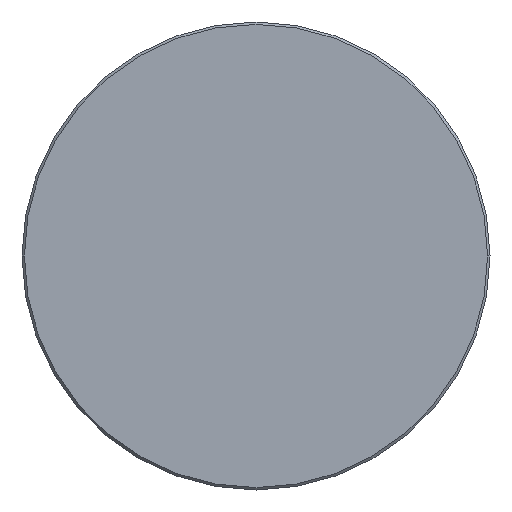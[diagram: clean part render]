
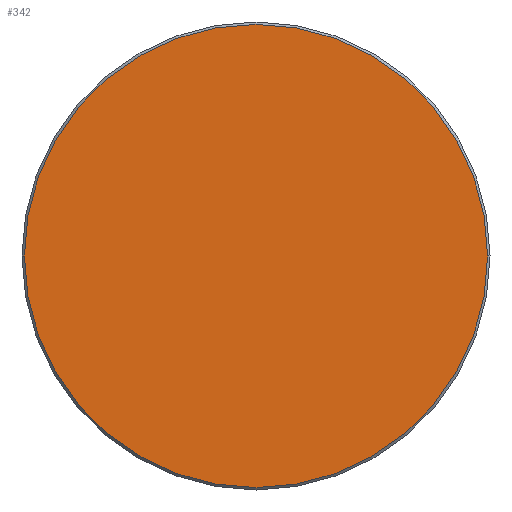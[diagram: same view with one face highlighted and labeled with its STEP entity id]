
A CAD part, left-side view. The second image highlights one B-rep face of the part: STEP entity #342.
In plain terms, the highlighted planar face has unit normal (-1, 0, 0).
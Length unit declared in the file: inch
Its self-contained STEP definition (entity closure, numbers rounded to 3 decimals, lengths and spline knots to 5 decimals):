
#28 = EDGE_LOOP ( 'NONE', ( #210, #247 ) ) ;
#49 = EDGE_CURVE ( 'NONE', #203, #174, #60, .T. ) ;
#51 = DIRECTION ( 'NONE',  ( -1., 0., 0. ) ) ;
#57 = EDGE_CURVE ( 'NONE', #174, #203, #298, .T. ) ;
#60 = CIRCLE ( 'NONE', #116, 0.38663 ) ;
#63 = CARTESIAN_POINT ( 'NONE',  ( 0., 0.38663, 0. ) ) ;
#80 = CARTESIAN_POINT ( 'NONE',  ( 0., 0., 0. ) ) ;
#96 = AXIS2_PLACEMENT_3D ( 'NONE', #80, #51, #225 ) ;
#97 = CARTESIAN_POINT ( 'NONE',  ( 0., -0.38663, 0. ) ) ;
#107 = PLANE ( 'NONE',  #96 ) ;
#116 = AXIS2_PLACEMENT_3D ( 'NONE', #155, #299, #305 ) ;
#155 = CARTESIAN_POINT ( 'NONE',  ( 0., 0., 0. ) ) ;
#157 = CARTESIAN_POINT ( 'NONE',  ( 0., 0., 0. ) ) ;
#174 = VERTEX_POINT ( 'NONE', #63 ) ;
#187 = DIRECTION ( 'NONE',  ( -1., 0., 0. ) ) ;
#203 = VERTEX_POINT ( 'NONE', #97 ) ;
#207 = AXIS2_PLACEMENT_3D ( 'NONE', #157, #187, #211 ) ;
#210 = ORIENTED_EDGE ( 'NONE', *, *, #57, .T. ) ;
#211 = DIRECTION ( 'NONE',  ( 0., -1., 0. ) ) ;
#225 = DIRECTION ( 'NONE',  ( 0., -1., 0. ) ) ;
#247 = ORIENTED_EDGE ( 'NONE', *, *, #49, .T. ) ;
#298 = CIRCLE ( 'NONE', #207, 0.38663 ) ;
#299 = DIRECTION ( 'NONE',  ( -1., 0., 0. ) ) ;
#305 = DIRECTION ( 'NONE',  ( 0., -1., 0. ) ) ;
#334 = FACE_OUTER_BOUND ( 'NONE', #28, .T. ) ;
#342 = ADVANCED_FACE ( 'NONE', ( #334 ), #107, .T. ) ;
